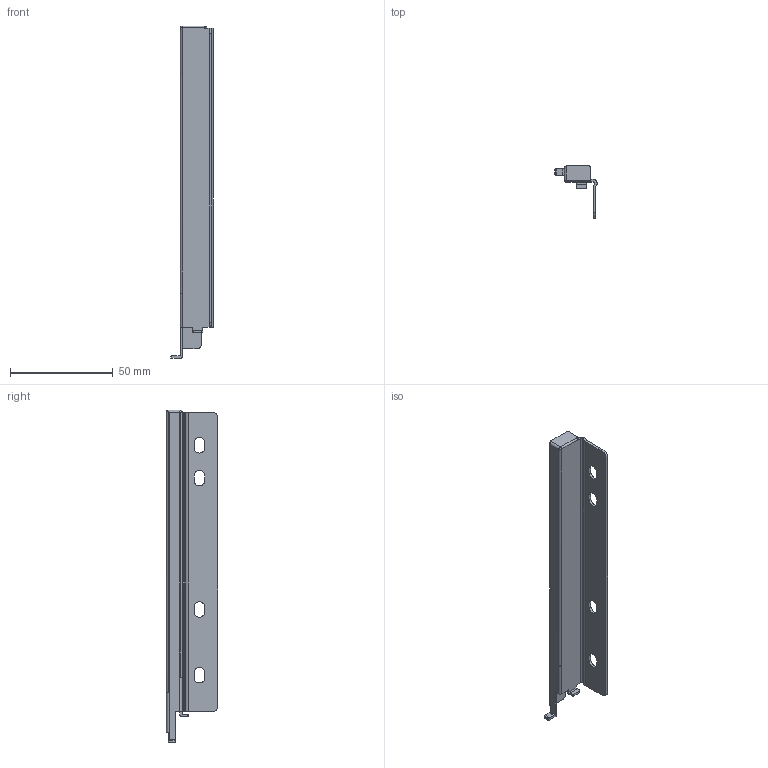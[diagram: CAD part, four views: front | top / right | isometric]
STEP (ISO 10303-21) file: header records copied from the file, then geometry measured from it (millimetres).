
FILE_DESCRIPTION (( 'STEP AP203' ), '1' );
FILE_NAME ('HT13031-L.STEP', '2019-07-08T06:07:55', ( 'ww' ), ( 'Microsoft' ), 'SwSTEP 2.0', 'SolidWorks 2012', '' );
FILE_SCHEMA (( 'CONFIG_CONTROL_DESIGN' ));
Length unit declared in the file: millimetre
Products named in the file (1): HT13031-L
Bounding box: 20.6 x 25.3 x 161.7 mm (x, y, z)
Volume: 15752.6 mm3; surface area: 12315.7 mm2
Topology: 1 solids, 1 shells, 85 faces, 246 edges, 162 vertices
Faces by surface type: plane 47, cylinder 37, bspline 1
Entity records: 2943 total; most frequent: CARTESIAN_POINT 588, ORIENTED_EDGE 490, DIRECTION 466, EDGE_CURVE 245, LINE 170, VECTOR 170, VERTEX_POINT 162, AXIS2_PLACEMENT_3D 148
